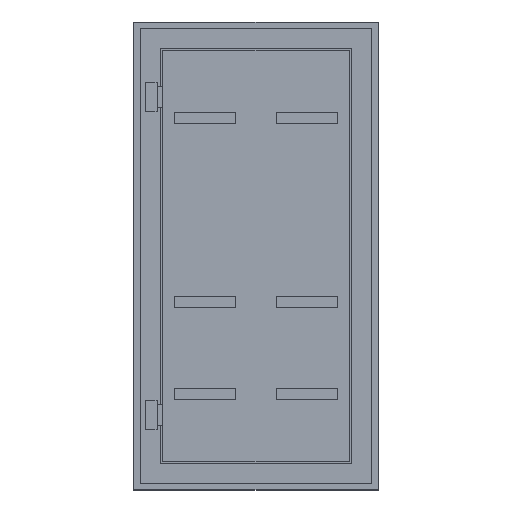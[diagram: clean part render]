
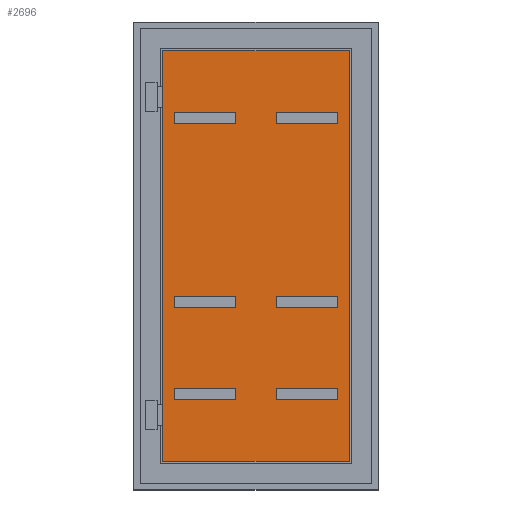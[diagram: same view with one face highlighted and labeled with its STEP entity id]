
A CAD part, top view. The second image highlights one B-rep face of the part: STEP entity #2696.
In plain terms, the highlighted planar face has unit normal (0, 0, 1).
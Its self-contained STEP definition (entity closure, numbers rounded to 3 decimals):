
#645=DIRECTION('',(0.,-1.,0.));
#646=VECTOR('',#645,1832.);
#647=CARTESIAN_POINT('',(-416.,916.,-41.));
#648=LINE('',#647,#646);
#649=DIRECTION('',(-1.,0.,0.));
#650=VECTOR('',#649,832.);
#651=CARTESIAN_POINT('',(416.,916.,-41.));
#652=LINE('',#651,#650);
#653=DIRECTION('',(0.,1.,0.));
#654=VECTOR('',#653,1832.);
#655=CARTESIAN_POINT('',(416.,-916.,-41.));
#656=LINE('',#655,#654);
#657=DIRECTION('',(1.,0.,0.));
#658=VECTOR('',#657,832.);
#659=CARTESIAN_POINT('',(-416.,-916.,-41.));
#660=LINE('',#659,#658);
#661=DIRECTION('',(1.,0.,0.));
#662=VECTOR('',#661,275.);
#663=CARTESIAN_POINT('',(-365.,590.,-41.));
#664=LINE('',#663,#662);
#665=DIRECTION('',(0.,1.,0.));
#666=VECTOR('',#665,50.);
#667=CARTESIAN_POINT('',(-90.,590.,-41.));
#668=LINE('',#667,#666);
#669=DIRECTION('',(1.,0.,0.));
#670=VECTOR('',#669,275.);
#671=CARTESIAN_POINT('',(-365.,640.,-41.));
#672=LINE('',#671,#670);
#673=DIRECTION('',(0.,1.,0.));
#674=VECTOR('',#673,50.);
#675=CARTESIAN_POINT('',(-365.,590.,-41.));
#676=LINE('',#675,#674);
#677=DIRECTION('',(1.,0.,0.));
#678=VECTOR('',#677,275.);
#679=CARTESIAN_POINT('',(90.,590.,-41.));
#680=LINE('',#679,#678);
#681=DIRECTION('',(0.,1.,0.));
#682=VECTOR('',#681,50.);
#683=CARTESIAN_POINT('',(365.,590.,-41.));
#684=LINE('',#683,#682);
#685=DIRECTION('',(1.,0.,0.));
#686=VECTOR('',#685,275.);
#687=CARTESIAN_POINT('',(90.,640.,-41.));
#688=LINE('',#687,#686);
#689=DIRECTION('',(0.,1.,0.));
#690=VECTOR('',#689,50.);
#691=CARTESIAN_POINT('',(90.,590.,-41.));
#692=LINE('',#691,#690);
#693=DIRECTION('',(0.,-1.,0.));
#694=VECTOR('',#693,50.);
#695=CARTESIAN_POINT('',(90.,-180.,-41.));
#696=LINE('',#695,#694);
#697=DIRECTION('',(1.,0.,0.));
#698=VECTOR('',#697,275.);
#699=CARTESIAN_POINT('',(90.,-230.,-41.));
#700=LINE('',#699,#698);
#701=DIRECTION('',(0.,1.,0.));
#702=VECTOR('',#701,50.);
#703=CARTESIAN_POINT('',(365.,-230.,-41.));
#704=LINE('',#703,#702);
#705=DIRECTION('',(-1.,0.,0.));
#706=VECTOR('',#705,275.);
#707=CARTESIAN_POINT('',(365.,-180.,-41.));
#708=LINE('',#707,#706);
#709=DIRECTION('',(-1.,0.,0.));
#710=VECTOR('',#709,275.);
#711=CARTESIAN_POINT('',(-90.,-180.,-41.));
#712=LINE('',#711,#710);
#713=DIRECTION('',(0.,-1.,0.));
#714=VECTOR('',#713,50.);
#715=CARTESIAN_POINT('',(-365.,-180.,-41.));
#716=LINE('',#715,#714);
#717=DIRECTION('',(1.,0.,0.));
#718=VECTOR('',#717,275.);
#719=CARTESIAN_POINT('',(-365.,-230.,-41.));
#720=LINE('',#719,#718);
#721=DIRECTION('',(0.,1.,0.));
#722=VECTOR('',#721,50.);
#723=CARTESIAN_POINT('',(-90.,-230.,-41.));
#724=LINE('',#723,#722);
#725=DIRECTION('',(0.,-1.,0.));
#726=VECTOR('',#725,50.);
#727=CARTESIAN_POINT('',(90.,-590.,-41.));
#728=LINE('',#727,#726);
#729=DIRECTION('',(1.,0.,0.));
#730=VECTOR('',#729,275.);
#731=CARTESIAN_POINT('',(90.,-640.,-41.));
#732=LINE('',#731,#730);
#733=DIRECTION('',(0.,1.,0.));
#734=VECTOR('',#733,50.);
#735=CARTESIAN_POINT('',(365.,-640.,-41.));
#736=LINE('',#735,#734);
#737=DIRECTION('',(-1.,0.,0.));
#738=VECTOR('',#737,275.);
#739=CARTESIAN_POINT('',(365.,-590.,-41.));
#740=LINE('',#739,#738);
#741=DIRECTION('',(-1.,0.,0.));
#742=VECTOR('',#741,275.);
#743=CARTESIAN_POINT('',(-90.,-590.,-41.));
#744=LINE('',#743,#742);
#745=DIRECTION('',(0.,-1.,0.));
#746=VECTOR('',#745,50.);
#747=CARTESIAN_POINT('',(-365.,-590.,-41.));
#748=LINE('',#747,#746);
#749=DIRECTION('',(1.,0.,0.));
#750=VECTOR('',#749,275.);
#751=CARTESIAN_POINT('',(-365.,-640.,-41.));
#752=LINE('',#751,#750);
#753=DIRECTION('',(0.,1.,0.));
#754=VECTOR('',#753,50.);
#755=CARTESIAN_POINT('',(-90.,-640.,-41.));
#756=LINE('',#755,#754);
#1377=CARTESIAN_POINT('',(-416.,916.,-41.));
#1378=CARTESIAN_POINT('',(-416.,-916.,-41.));
#1379=VERTEX_POINT('',#1377);
#1380=VERTEX_POINT('',#1378);
#1381=CARTESIAN_POINT('',(416.,-916.,-41.));
#1382=VERTEX_POINT('',#1381);
#1383=CARTESIAN_POINT('',(416.,916.,-41.));
#1384=VERTEX_POINT('',#1383);
#1649=CARTESIAN_POINT('',(-365.,590.,-41.));
#1650=CARTESIAN_POINT('',(-90.,590.,-41.));
#1651=VERTEX_POINT('',#1649);
#1652=VERTEX_POINT('',#1650);
#1653=CARTESIAN_POINT('',(90.,590.,-41.));
#1654=CARTESIAN_POINT('',(365.,590.,-41.));
#1655=VERTEX_POINT('',#1653);
#1656=VERTEX_POINT('',#1654);
#1657=CARTESIAN_POINT('',(-365.,640.,-41.));
#1658=CARTESIAN_POINT('',(-90.,640.,-41.));
#1659=VERTEX_POINT('',#1657);
#1660=VERTEX_POINT('',#1658);
#1661=CARTESIAN_POINT('',(90.,640.,-41.));
#1662=CARTESIAN_POINT('',(365.,640.,-41.));
#1663=VERTEX_POINT('',#1661);
#1664=VERTEX_POINT('',#1662);
#1713=CARTESIAN_POINT('',(90.,-180.,-41.));
#1714=CARTESIAN_POINT('',(90.,-230.,-41.));
#1715=VERTEX_POINT('',#1713);
#1716=VERTEX_POINT('',#1714);
#1717=CARTESIAN_POINT('',(365.,-230.,-41.));
#1718=VERTEX_POINT('',#1717);
#1719=CARTESIAN_POINT('',(365.,-180.,-41.));
#1720=VERTEX_POINT('',#1719);
#1721=CARTESIAN_POINT('',(-90.,-180.,-41.));
#1722=CARTESIAN_POINT('',(-365.,-180.,-41.));
#1723=VERTEX_POINT('',#1721);
#1724=VERTEX_POINT('',#1722);
#1725=CARTESIAN_POINT('',(-365.,-230.,-41.));
#1726=VERTEX_POINT('',#1725);
#1727=CARTESIAN_POINT('',(-90.,-230.,-41.));
#1728=VERTEX_POINT('',#1727);
#1777=CARTESIAN_POINT('',(90.,-590.,-41.));
#1778=CARTESIAN_POINT('',(90.,-640.,-41.));
#1779=VERTEX_POINT('',#1777);
#1780=VERTEX_POINT('',#1778);
#1781=CARTESIAN_POINT('',(365.,-640.,-41.));
#1782=VERTEX_POINT('',#1781);
#1783=CARTESIAN_POINT('',(365.,-590.,-41.));
#1784=VERTEX_POINT('',#1783);
#1785=CARTESIAN_POINT('',(-90.,-590.,-41.));
#1786=CARTESIAN_POINT('',(-365.,-590.,-41.));
#1787=VERTEX_POINT('',#1785);
#1788=VERTEX_POINT('',#1786);
#1789=CARTESIAN_POINT('',(-365.,-640.,-41.));
#1790=VERTEX_POINT('',#1789);
#1791=CARTESIAN_POINT('',(-90.,-640.,-41.));
#1792=VERTEX_POINT('',#1791);
#2627=CARTESIAN_POINT('',(0.,0.,-41.));
#2628=DIRECTION('',(0.,0.,1.));
#2629=DIRECTION('',(1.,0.,0.));
#2630=AXIS2_PLACEMENT_3D('',#2627,#2628,#2629);
#2631=PLANE('',#2630);
#2633=ORIENTED_EDGE('',*,*,#2632,.F.);
#2635=ORIENTED_EDGE('',*,*,#2634,.F.);
#2637=ORIENTED_EDGE('',*,*,#2636,.F.);
#2639=ORIENTED_EDGE('',*,*,#2638,.F.);
#2640=EDGE_LOOP('',(#2633,#2635,#2637,#2639));
#2641=FACE_OUTER_BOUND('',#2640,.F.);
#2642=ORIENTED_EDGE('',*,*,#2395,.T.);
#2643=ORIENTED_EDGE('',*,*,#2462,.T.);
#2644=ORIENTED_EDGE('',*,*,#2527,.F.);
#2645=ORIENTED_EDGE('',*,*,#2592,.F.);
#2646=EDGE_LOOP('',(#2642,#2643,#2644,#2645));
#2647=FACE_BOUND('',#2646,.F.);
#2648=ORIENTED_EDGE('',*,*,#2418,.T.);
#2650=ORIENTED_EDGE('',*,*,#2649,.T.);
#2651=ORIENTED_EDGE('',*,*,#2549,.F.);
#2653=ORIENTED_EDGE('',*,*,#2652,.F.);
#2654=EDGE_LOOP('',(#2648,#2650,#2651,#2653));
#2655=FACE_BOUND('',#2654,.F.);
#2657=ORIENTED_EDGE('',*,*,#2656,.T.);
#2659=ORIENTED_EDGE('',*,*,#2658,.T.);
#2661=ORIENTED_EDGE('',*,*,#2660,.T.);
#2663=ORIENTED_EDGE('',*,*,#2662,.T.);
#2664=EDGE_LOOP('',(#2657,#2659,#2661,#2663));
#2665=FACE_BOUND('',#2664,.F.);
#2667=ORIENTED_EDGE('',*,*,#2666,.T.);
#2669=ORIENTED_EDGE('',*,*,#2668,.T.);
#2671=ORIENTED_EDGE('',*,*,#2670,.T.);
#2673=ORIENTED_EDGE('',*,*,#2672,.T.);
#2674=EDGE_LOOP('',(#2667,#2669,#2671,#2673));
#2675=FACE_BOUND('',#2674,.F.);
#2677=ORIENTED_EDGE('',*,*,#2676,.T.);
#2679=ORIENTED_EDGE('',*,*,#2678,.T.);
#2681=ORIENTED_EDGE('',*,*,#2680,.T.);
#2683=ORIENTED_EDGE('',*,*,#2682,.T.);
#2684=EDGE_LOOP('',(#2677,#2679,#2681,#2683));
#2685=FACE_BOUND('',#2684,.F.);
#2687=ORIENTED_EDGE('',*,*,#2686,.T.);
#2689=ORIENTED_EDGE('',*,*,#2688,.T.);
#2691=ORIENTED_EDGE('',*,*,#2690,.T.);
#2693=ORIENTED_EDGE('',*,*,#2692,.T.);
#2694=EDGE_LOOP('',(#2687,#2689,#2691,#2693));
#2695=FACE_BOUND('',#2694,.F.);
#2395=EDGE_CURVE('',#1651,#1652,#664,.T.);
#2418=EDGE_CURVE('',#1655,#1656,#680,.T.);
#2462=EDGE_CURVE('',#1652,#1660,#668,.T.);
#2527=EDGE_CURVE('',#1659,#1660,#672,.T.);
#2549=EDGE_CURVE('',#1663,#1664,#688,.T.);
#2592=EDGE_CURVE('',#1651,#1659,#676,.T.);
#2632=EDGE_CURVE('',#1379,#1380,#648,.T.);
#2634=EDGE_CURVE('',#1384,#1379,#652,.T.);
#2636=EDGE_CURVE('',#1382,#1384,#656,.T.);
#2638=EDGE_CURVE('',#1380,#1382,#660,.T.);
#2649=EDGE_CURVE('',#1656,#1664,#684,.T.);
#2652=EDGE_CURVE('',#1655,#1663,#692,.T.);
#2656=EDGE_CURVE('',#1715,#1716,#696,.T.);
#2658=EDGE_CURVE('',#1716,#1718,#700,.T.);
#2660=EDGE_CURVE('',#1718,#1720,#704,.T.);
#2662=EDGE_CURVE('',#1720,#1715,#708,.T.);
#2666=EDGE_CURVE('',#1723,#1724,#712,.T.);
#2668=EDGE_CURVE('',#1724,#1726,#716,.T.);
#2670=EDGE_CURVE('',#1726,#1728,#720,.T.);
#2672=EDGE_CURVE('',#1728,#1723,#724,.T.);
#2676=EDGE_CURVE('',#1779,#1780,#728,.T.);
#2678=EDGE_CURVE('',#1780,#1782,#732,.T.);
#2680=EDGE_CURVE('',#1782,#1784,#736,.T.);
#2682=EDGE_CURVE('',#1784,#1779,#740,.T.);
#2686=EDGE_CURVE('',#1787,#1788,#744,.T.);
#2688=EDGE_CURVE('',#1788,#1790,#748,.T.);
#2690=EDGE_CURVE('',#1790,#1792,#752,.T.);
#2692=EDGE_CURVE('',#1792,#1787,#756,.T.);
#2696=ADVANCED_FACE('',(#2641,#2647,#2655,#2665,#2675,#2685,#2695),#2631,.T.);
